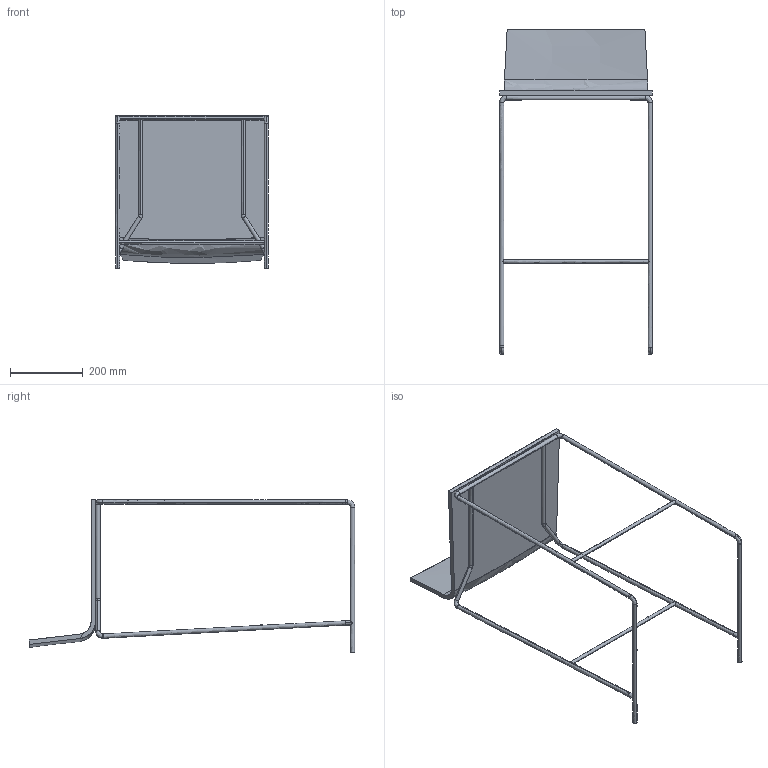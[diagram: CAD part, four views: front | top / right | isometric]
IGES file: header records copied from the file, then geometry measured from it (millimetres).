
Start section: SolidWorks IGES file using analytic representation for surfaces
Global section: file name: V:\01-VICCARBE\VICCARBE HISTORICOS\VICCARBE 2006 TECNICO\PRODUCCION\PRODUCTOS\FAMILIAS 2D - 3D\3D (IGES + STL)\17-R.S\IGES\TABURETE RS.IGS; native system: SolidWorks 2005 by SolidWorks Corporation; preprocessor: SolidWorks 2005 by SolidWorks Corporation; author: FSanz; date: 070524.100013; units: millimetre
Bounding box: 420.04 x 894.68 x 422.06 mm (x, y, z)
Surface area: 660604.6 mm2 (no closed solid volume)
Topology: 0 solids, 0 shells, 72 faces, 1914 edges, 2312 vertices
Faces by surface type: bspline 38, revolution 34
